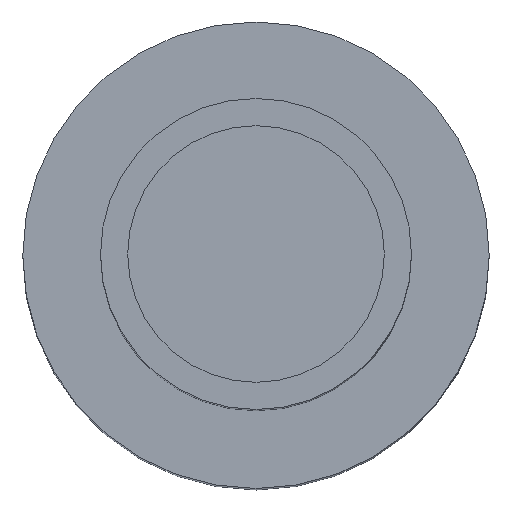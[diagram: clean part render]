
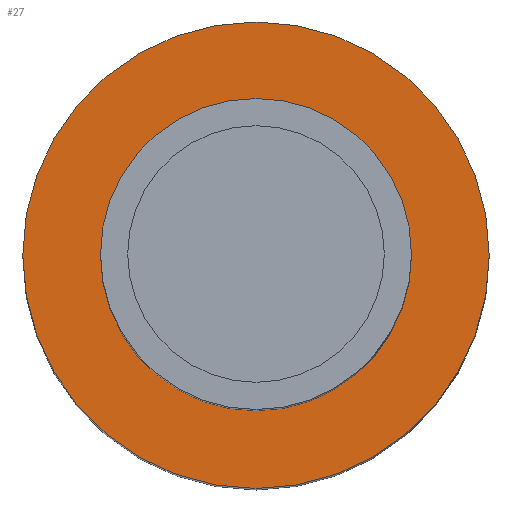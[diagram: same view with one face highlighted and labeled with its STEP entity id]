
A CAD part, top view. The second image highlights one B-rep face of the part: STEP entity #27.
In plain terms, the highlighted planar face has unit normal (0, 0, 1) as drawn and (-1, 0, 0) by its records, which use the part's own axes.
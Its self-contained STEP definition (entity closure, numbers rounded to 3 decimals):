
#22 = EDGE_CURVE ( 'NONE', #23, #24, #139, .T. ) ;
#23 = VERTEX_POINT ( 'NONE', #134 ) ;
#24 = VERTEX_POINT ( 'NONE', #133 ) ;
#27 = ADVANCED_FACE ( 'NONE', ( #132, #131 ), #130, .T. ) ;
#39 = ORIENTED_EDGE ( 'NONE', *, *, #93, .F. ) ;
#40 = EDGE_LOOP ( 'NONE', ( #41, #42 ) ) ;
#41 = ORIENTED_EDGE ( 'NONE', *, *, #22, .F. ) ;
#42 = ORIENTED_EDGE ( 'NONE', *, *, #43, .F. ) ;
#43 = EDGE_CURVE ( 'NONE', #24, #23, #176, .T. ) ;
#78 = EDGE_CURVE ( 'NONE', #79, #80, #355, .T. ) ;
#79 = VERTEX_POINT ( 'NONE', #350 ) ;
#80 = VERTEX_POINT ( 'NONE', #349 ) ;
#93 = EDGE_CURVE ( 'NONE', #80, #79, #392, .T. ) ;
#130 = PLANE ( 'NONE',  #203 ) ;
#131 = FACE_BOUND ( 'NONE', #40, .T. ) ;
#132 = FACE_OUTER_BOUND ( 'NONE', #237, .T. ) ;
#133 = CARTESIAN_POINT ( 'NONE',  ( -11., 0., -2. ) ) ;
#134 = CARTESIAN_POINT ( 'NONE',  ( -11., 0., 2. ) ) ;
#135 = DIRECTION ( 'NONE',  ( 0., 0., 1. ) ) ;
#136 = DIRECTION ( 'NONE',  ( -1., 0., 0. ) ) ;
#137 = CARTESIAN_POINT ( 'NONE',  ( -11., 0., 0. ) ) ;
#138 = AXIS2_PLACEMENT_3D ( 'NONE', #137, #136, #135 ) ;
#139 = CIRCLE ( 'NONE', #138, 2. ) ;
#172 = DIRECTION ( 'NONE',  ( 0., 0., 1. ) ) ;
#173 = DIRECTION ( 'NONE',  ( -1., 0., 0. ) ) ;
#174 = CARTESIAN_POINT ( 'NONE',  ( -11., 0., 0. ) ) ;
#175 = AXIS2_PLACEMENT_3D ( 'NONE', #174, #173, #172 ) ;
#176 = CIRCLE ( 'NONE', #175, 2. ) ;
#200 = DIRECTION ( 'NONE',  ( 0., 0., 1. ) ) ;
#201 = DIRECTION ( 'NONE',  ( -1., 0., 0. ) ) ;
#202 = CARTESIAN_POINT ( 'NONE',  ( -11., 0., 0. ) ) ;
#203 = AXIS2_PLACEMENT_3D ( 'NONE', #202, #201, #200 ) ;
#237 = EDGE_LOOP ( 'NONE', ( #238, #39 ) ) ;
#238 = ORIENTED_EDGE ( 'NONE', *, *, #78, .F. ) ;
#349 = CARTESIAN_POINT ( 'NONE',  ( -11., 0., 3. ) ) ;
#350 = CARTESIAN_POINT ( 'NONE',  ( -11., 0., -3. ) ) ;
#351 = DIRECTION ( 'NONE',  ( 0., 0., 1. ) ) ;
#352 = DIRECTION ( 'NONE',  ( 1., 0., 0. ) ) ;
#353 = CARTESIAN_POINT ( 'NONE',  ( -11., 0., 0. ) ) ;
#354 = AXIS2_PLACEMENT_3D ( 'NONE', #353, #352, #351 ) ;
#355 = CIRCLE ( 'NONE', #354, 3. ) ;
#389 = DIRECTION ( 'NONE',  ( 0., 0., 1. ) ) ;
#390 = DIRECTION ( 'NONE',  ( 1., 0., 0. ) ) ;
#391 = AXIS2_PLACEMENT_3D ( 'NONE', #398, #390, #389 ) ;
#392 = CIRCLE ( 'NONE', #391, 3. ) ;
#398 = CARTESIAN_POINT ( 'NONE',  ( -11., 0., 0. ) ) ;
